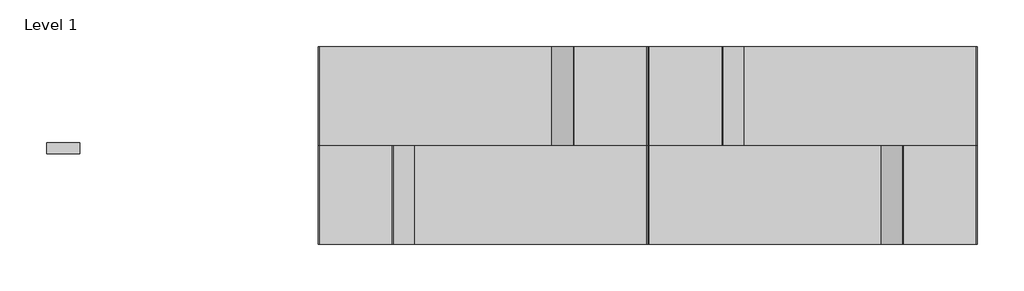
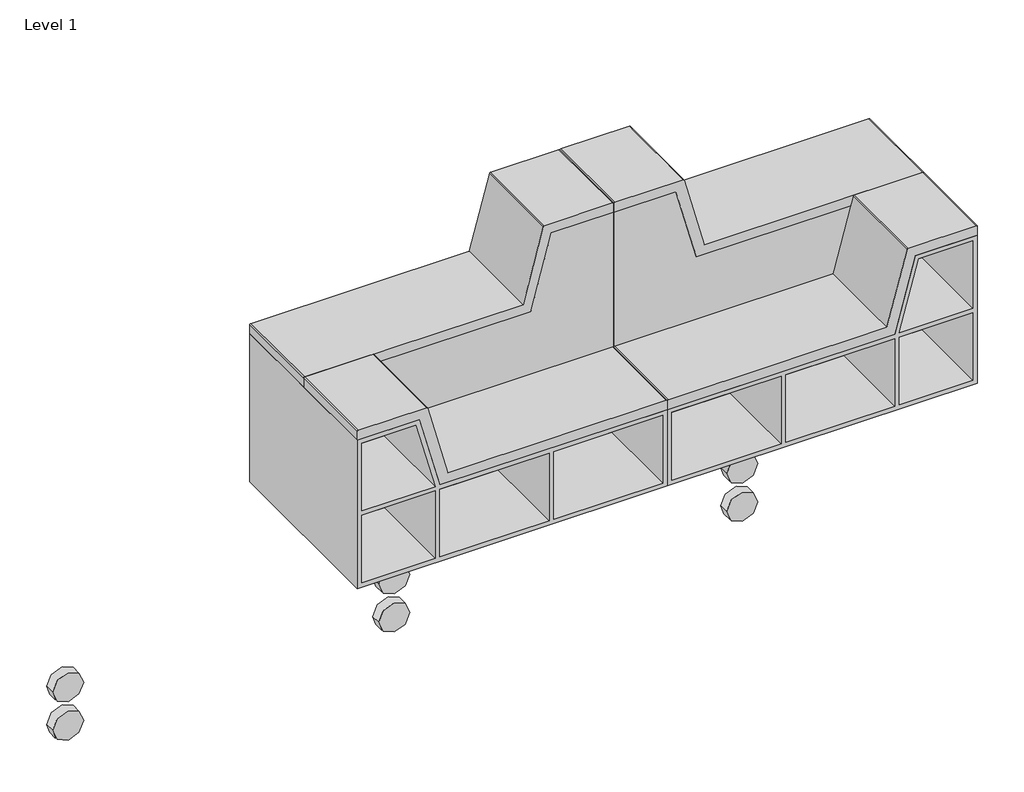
# One storey: 6 proxies, 2 furniture elements.
"""IFC4 building model written with IfcOpenShell, lengths in millimetres."""

from ifc_helpers import new_model, si_unit, origin, place, context, project, spatial, transform, mapped, element, save
from components import materialmodel_materialmodel_17b3a4fc, furniture_1fdde961, furniture_9fe1ca94

model = new_model("IFC4")

# Units and contexts
model_context = context("Model", 3, world=origin())
ifc_project = project(units=[si_unit("LENGTHUNIT", "METRE", prefix="MILLI")], contexts=[model_context])

# Site, building, storey
site = spatial("IfcSite", under=ifc_project)
building = spatial("IfcBuilding", under=site)
storey = spatial("IfcBuildingStorey", under=building, Name="Level 1", Elevation=0.0)

# Proxies
placement = place(None, origin())
materialmodel_materialmodel_shape = materialmodel_materialmodel_17b3a4fc(model_context)
element("IfcBuildingElementProxy", 1, Name="MaterialModel : MaterialModel", ObjectType="MaterialModel : MaterialModel", at=placement, inside=storey, context=model_context, shape_type="MappedRepresentation", body=[
    mapped(materialmodel_materialmodel_shape, transform((-6040.1325632, 2209.4764129, -647.1450474), x_axis=(1.0, 0.0, 0.0), y_axis=(0.0, 1.0, 0.0), z_axis=(0.0, 0.0, 1.0))),
])
element("IfcBuildingElementProxy", 2, Name="MaterialModel : MaterialModel", ObjectType="MaterialModel : MaterialModel", at=placement, inside=storey, context=model_context, shape_type="MappedRepresentation", body=[
    mapped(materialmodel_materialmodel_shape, transform((-6040.1622712, 2209.4764129, -842.1154545), x_axis=(1.0, 0.0, 0.0), y_axis=(0.0, 1.0, 0.0), z_axis=(0.0, 0.0, 1.0))),
])
element("IfcBuildingElementProxy", 3, Name="MaterialModel : MaterialModel", ObjectType="MaterialModel : MaterialModel", at=placement, inside=storey, context=model_context, shape_type="MappedRepresentation", body=[
    mapped(materialmodel_materialmodel_shape, transform((-4462.2346731, 2209.4764129, -647.1450474), x_axis=(1.0, 0.0, 0.0), y_axis=(0.0, 1.0, 0.0), z_axis=(0.0, 0.0, 1.0))),
])
element("IfcBuildingElementProxy", 4, Name="MaterialModel : MaterialModel", ObjectType="MaterialModel : MaterialModel", at=placement, inside=storey, context=model_context, shape_type="MappedRepresentation", body=[
    mapped(materialmodel_materialmodel_shape, transform((-4462.2643811, 2209.4764129, -842.1154545), x_axis=(1.0, 0.0, 0.0), y_axis=(0.0, 1.0, 0.0), z_axis=(0.0, 0.0, 1.0))),
])
element("IfcBuildingElementProxy", 5, Name="MaterialModel : MaterialModel", ObjectType="MaterialModel : MaterialModel", at=placement, inside=storey, context=model_context, shape_type="MappedRepresentation", body=[
    mapped(materialmodel_materialmodel_shape, transform((-2779.4470971, 2209.4764129, -670.6464654), x_axis=(1.0, 0.0, 0.0), y_axis=(0.0, 1.0, 0.0), z_axis=(0.0, 0.0, 1.0))),
])
element("IfcBuildingElementProxy", 6, Name="MaterialModel : MaterialModel", ObjectType="MaterialModel : MaterialModel", at=placement, inside=storey, context=model_context, shape_type="MappedRepresentation", body=[
    mapped(materialmodel_materialmodel_shape, transform((-2779.4768051, 2209.4764129, -865.6168724), x_axis=(1.0, 0.0, 0.0), y_axis=(0.0, 1.0, 0.0), z_axis=(0.0, 0.0, 1.0))),
])

# Furniture
furniture_shape = furniture_1fdde961(model_context)
element("IfcFurniture", 7, ObjectType="BK Library - HopOn - Left : BK Library - HopOn - Left", at=placement, inside=storey, context=model_context, shape_type="MappedRepresentation", body=[
    mapped(furniture_shape, transform((-4128.9176536, 2197.9079464, 0.0), x_axis=(1.0, 0.0, 0.0), y_axis=(0.0, 1.0, 0.0), z_axis=(0.0, 0.0, 1.0))),
])
furniture_2_shape = furniture_9fe1ca94(model_context)
element("IfcFurniture", 8, ObjectType="BK Library - HopOn - Right : BK Library - HopOn - Right", at=placement, inside=storey, context=model_context, shape_type="MappedRepresentation", body=[
    mapped(furniture_2_shape, transform((-2628.9176469, 2197.9079464, 0.0), x_axis=(1.0, 0.0, 0.0), y_axis=(0.0, 1.0, 0.0), z_axis=(0.0, 0.0, 1.0))),
])

save(model, "model.ifc")
